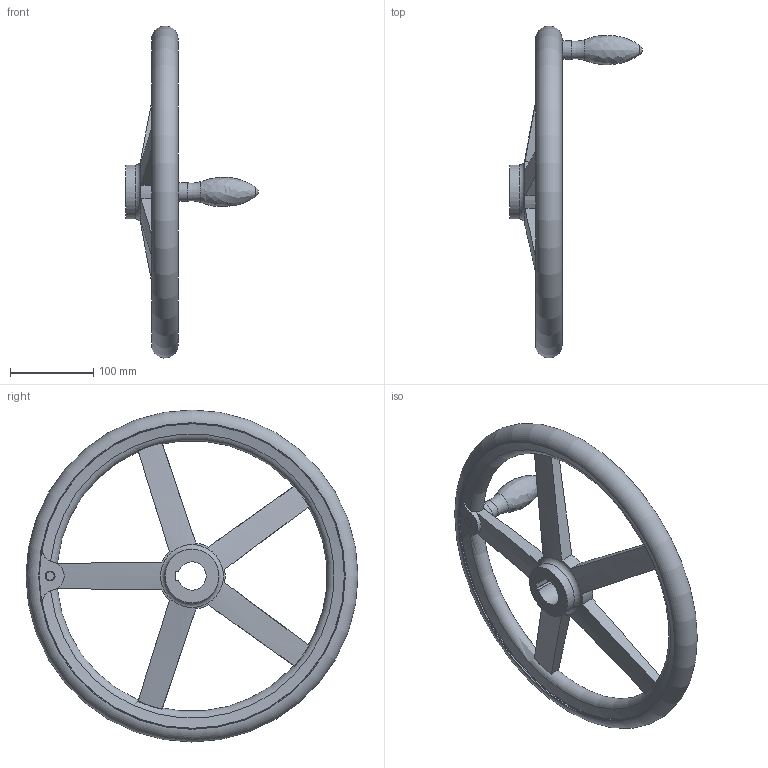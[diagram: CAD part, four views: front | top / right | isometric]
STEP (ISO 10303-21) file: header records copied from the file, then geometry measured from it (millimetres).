
FILE_DESCRIPTION( ( 'STEP AP203' ), '1' );
FILE_NAME( 'C:/Temp/Ganter_Step_05_03_2020/data/1_3/din_950/din_950_k/din_950_k_f/Handwheel DIN 950-AL-400-K34-F.stp', '2020-03-05T10:31:27', ( 'License CC BY-ND 4.0' ), ( 'CADENAS' ), ' ', 'PARTsolutions', ' ' );
FILE_SCHEMA( ( 'CONFIG_CONTROL_DESIGN' ) );
Length unit declared in the file: millimetre
Products named in the file (1): _Handwheel DIN 950-AL-400-K34-F
Bounding box: 159.5 x 399.9 x 399.9 mm (x, y, z)
Volume: 1423863.1 mm3; surface area: 209735.7 mm2
Topology: 1 solids, 1 shells, 64 faces, 190 edges, 123 vertices
Faces by surface type: cylinder 20, torus 19, plane 18, cone 5, sphere 1, bspline 1
Full cylindrical faces by diameter (mm): 12 x1, 21.8 x1, 65 x2, 368 x2
Entity records: 2611 total; most frequent: CARTESIAN_POINT 1036, ORIENTED_EDGE 326, DIRECTION 288, EDGE_CURVE 163, AXIS2_PLACEMENT_3D 129, VERTEX_POINT 117, EDGE_LOOP 90, FACE_OUTER_BOUND 79
